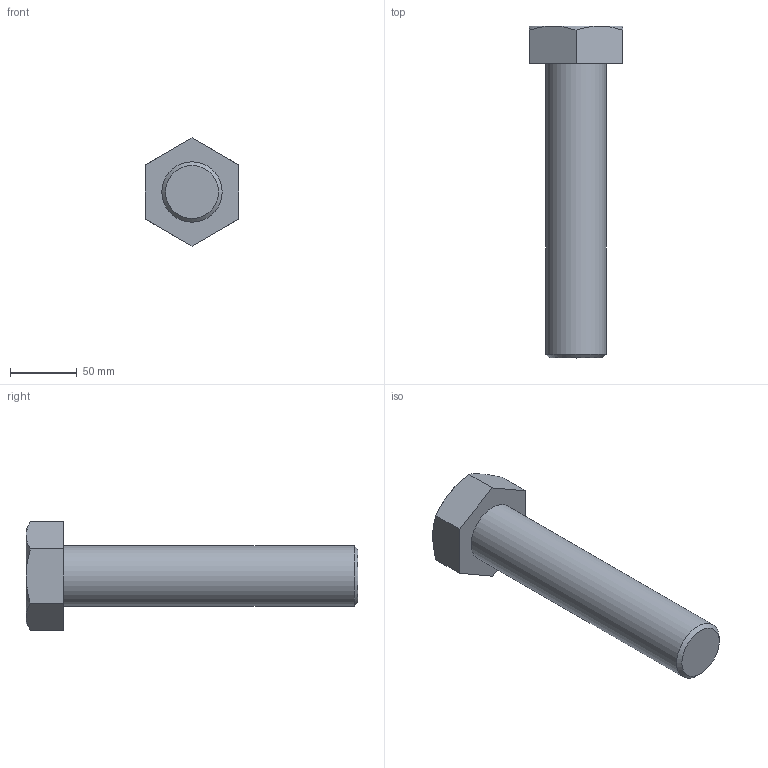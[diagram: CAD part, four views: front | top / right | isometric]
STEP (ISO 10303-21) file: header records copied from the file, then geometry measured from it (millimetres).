
FILE_DESCRIPTION(/* description */ (''),/* implementation_level */ '2;1');
FILE_NAME(/* name */ 'C:\Users\unitec\Documents\Inventor\各種小物\JIS\JIS B 1180 六角ボルト 等級C\hbc45\M45x220.stp',/* time_stamp */ '2015-02-13T14:58:29+09:00',/* author */ ('unitec'),/* organization */ (''),/* preprocessor_version */ 'ST-DEVELOPER v15.2',/* originating_system */ 'Autodesk Inventor 2014',/* authorisation */ '');
FILE_SCHEMA (('AUTOMOTIVE_DESIGN { 1 0 10303 214 3 1 1 }'));
Length unit declared in the file: millimetre
Products named in the file (1): M45x220
Bounding box: 70 x 248 x 80.83 mm (x, y, z)
Volume: 467824.8 mm3; surface area: 45941.1 mm2
Topology: 1 solids, 1 shells, 17 faces, 35 edges, 21 vertices
Faces by surface type: plane 9, cone 7, cylinder 1
Full cylindrical faces by diameter (mm): 45 x1
Entity records: 441 total; most frequent: CARTESIAN_POINT 96, ORIENTED_EDGE 66, DIRECTION 66, EDGE_CURVE 33, AXIS2_PLACEMENT_3D 27, VERTEX_POINT 21, EDGE_LOOP 20, ADVANCED_FACE 17
